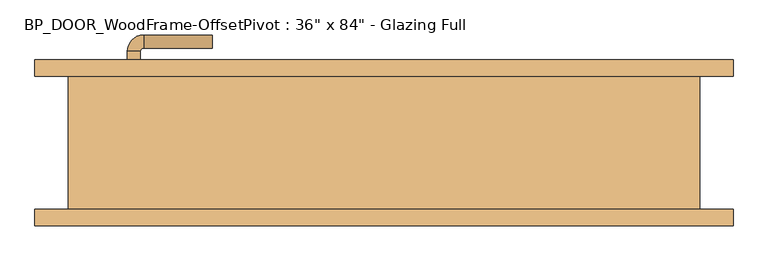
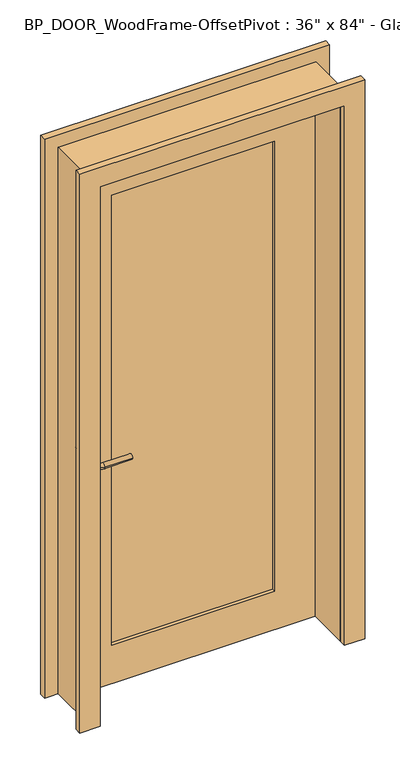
"""IFC4 building model written with IfcOpenShell, lengths in millimetres: door geometry."""

import ifcopenshell
import ifcopenshell.guid

model = None  # the IFC model being written
_history = None  # IfcOwnerHistory: only IFC2X3 demands one
_inside = {}  # id of a spatial element -> (the spatial element, [elements in it])
_under = {}  # id of a project, library or spatial element -> (it, [spatial elements below it])
_declared = {}  # id of a project -> (the project, [libraries it declares])
_typed = {}  # id of a type object -> (the type object, [elements of that type])
_made_of = {}  # id of a material, layer set ... -> (it, [elements and type objects made of it])


def new_model(schema):
    """Start an empty IFC model of exactly this schema.

    Asked for "IFC4X3", IfcOpenShell would pick the latest addendum, in which some entities
    have other attributes; the version numbers below select the first issue.
    IFC2X3 requires an IfcOwnerHistory on every rooted entity: one is made here for all.
    """
    global model, _history
    if schema == "IFC4X3":
        model = ifcopenshell.file(schema_version=(4, 3, 0, 0))
    else:
        model = ifcopenshell.file(schema=schema)
    _inside.clear()
    _under.clear()
    _declared.clear()
    _typed.clear()
    _made_of.clear()
    _history = None
    if model.schema == "IFC2X3":
        org = make("IfcOrganization", Name="unknown")
        user = make(
            "IfcPersonAndOrganization",
            ThePerson=make("IfcPerson", FamilyName="unknown"),
            TheOrganization=org,
        )
        app = make(
            "IfcApplication",
            ApplicationDeveloper=org,
            Version="unknown",
            ApplicationFullName="unknown",
            ApplicationIdentifier="unknown",
        )
        _history = make(
            "IfcOwnerHistory",
            OwningUser=user,
            OwningApplication=app,
            ChangeAction="ADDED",
            CreationDate=0,
        )
    return model


def make(cls, **values):
    """One entity of the class cls with the attributes given. An attribute that is None is left unset."""
    return model.create_entity(
        cls, **{name: value for name, value in values.items() if value is not None}
    )


def rooted(cls, **values):
    """An entity with a GlobalId (a new one), such as an element, a storey or a relation."""
    return make(cls, GlobalId=ifcopenshell.guid.new(), OwnerHistory=_history, **values)


def si_unit(unit_type, name, prefix=None):
    """IfcSIUnit, for example si_unit("LENGTHUNIT", "METRE", prefix="MILLI")."""
    return make("IfcSIUnit", UnitType=unit_type, Prefix=prefix, Name=name)


def assignment(units):
    """IfcUnitAssignment: the units of a project."""
    return None if units is None else make("IfcUnitAssignment", Units=units)


def point(xyz):
    """IfcCartesianPoint."""
    return None if xyz is None else make("IfcCartesianPoint", Coordinates=xyz)


def direction(xyz):
    """IfcDirection."""
    return None if xyz is None else make("IfcDirection", DirectionRatios=xyz)


def frame(location, z_axis=None, x_axis=None):
    """IfcAxis2Placement3D, a coordinate frame: its origin and axes. An axis left out is left unset."""
    return make(
        "IfcAxis2Placement3D",
        Location=point(location),
        Axis=direction(z_axis),
        RefDirection=direction(x_axis),
    )


def frame_2d(location, x_axis=None):
    """IfcAxis2Placement2D, a coordinate frame in the plane: its origin and x axis."""
    return make(
        "IfcAxis2Placement2D", Location=point(location), RefDirection=direction(x_axis)
    )


def origin():
    """The frame at (0, 0, 0) with its axes left unset."""
    return frame((0.0, 0.0, 0.0))


def place(relative_to, where):
    """IfcLocalPlacement: puts the frame where relative to a parent placement (None: the world)."""
    return make(
        "IfcLocalPlacement", PlacementRelTo=relative_to, RelativePlacement=where
    )


def context(
    kind, dimensions, precision=None, world=None, true_north=None, identifier=None
):
    """IfcGeometricRepresentationContext, for example the 3D "Model" context."""
    return make(
        "IfcGeometricRepresentationContext",
        ContextIdentifier=identifier,
        ContextType=kind,
        CoordinateSpaceDimension=dimensions,
        Precision=precision,
        WorldCoordinateSystem=world,
        TrueNorth=true_north,
    )


def project(units=None, contexts=None):
    """IfcProject with its units and contexts."""
    return rooted(
        "IfcProject",
        Name="project",
        RepresentationContexts=contexts,
        UnitsInContext=assignment(units),
    )


def spatial(cls, under=None, at=None, **own):
    """A site, building, storey or space (cls), placed at a placement, below another one or the project."""
    s = rooted(cls, ObjectPlacement=at, **own)
    if under is not None:
        _under.setdefault(under.id(), (under, []))[1].append(s)
    return s


def polyline(points):
    """IfcPolyline through the points."""
    return make("IfcPolyline", Points=[point(p) for p in points])


def circle_curve(where, radius):
    """IfcCircle in the frame where."""
    return make("IfcCircle", Position=where, Radius=radius)


def ellipse_curve(where, semi_axis1, semi_axis2):
    """IfcEllipse in the frame where."""
    return make(
        "IfcEllipse", Position=where, SemiAxis1=semi_axis1, SemiAxis2=semi_axis2
    )


def trimmed(basis, trim1, trim2, sense, master):
    """IfcTrimmedCurve: the piece of a basis curve between two trims."""
    return make(
        "IfcTrimmedCurve",
        BasisCurve=basis,
        Trim1=trim1,
        Trim2=trim2,
        SenseAgreement=sense,
        MasterRepresentation=master,
    )


def segment(curve, same_sense, transition):
    """IfcCompositeCurveSegment."""
    return make(
        "IfcCompositeCurveSegment",
        Transition=transition,
        SameSense=same_sense,
        ParentCurve=curve,
    )


def composite_curve(segments, self_intersect=None):
    """IfcCompositeCurve: segments joined end to end."""
    return make("IfcCompositeCurve", Segments=segments, SelfIntersect=self_intersect)


def outline(outer, holes=None, kind="AREA"):
    """IfcArbitraryClosedProfileDef: a profile drawn as a closed curve; with holes, ...WithVoids."""
    if holes is None:
        return make("IfcArbitraryClosedProfileDef", ProfileType=kind, OuterCurve=outer)
    return make(
        "IfcArbitraryProfileDefWithVoids",
        ProfileType=kind,
        OuterCurve=outer,
        InnerCurves=holes,
    )


def extrude(swept, where, along, depth):
    """IfcExtrudedAreaSolid: the profile swept, set in the frame where, extruded along a direction by depth."""
    return make(
        "IfcExtrudedAreaSolid",
        SweptArea=swept,
        Position=where,
        ExtrudedDirection=direction(along),
        Depth=depth,
    )


def shape(context_of_items, identifier, shape_type, items):
    """IfcShapeRepresentation: the items that make up one representation, for example the "Body"."""
    return make(
        "IfcShapeRepresentation",
        ContextOfItems=context_of_items,
        RepresentationIdentifier=identifier,
        RepresentationType=shape_type,
        Items=items,
    )


def source(mapping_origin, context_of_items, identifier, shape_type, items):
    """IfcRepresentationMap: a shape defined once, which mapped items show again and again."""
    return make(
        "IfcRepresentationMap",
        MappingOrigin=mapping_origin,
        MappedRepresentation=shape(context_of_items, identifier, shape_type, items),
    )


def transform(
    local_origin,
    x_axis=None,
    y_axis=None,
    z_axis=None,
    scale=None,
    scale2=None,
    scale3=None,
    uniform=True,
):
    """IfcCartesianTransformationOperator3D, or its non-uniform kind. x_axis, y_axis, z_axis: its Axis1, 2, 3."""
    if uniform:
        return make(
            "IfcCartesianTransformationOperator3D",
            Axis1=direction(x_axis),
            Axis2=direction(y_axis),
            LocalOrigin=point(local_origin),
            Scale=scale,
            Axis3=direction(z_axis),
        )
    return make(
        "IfcCartesianTransformationOperator3DnonUniform",
        Axis1=direction(x_axis),
        Axis2=direction(y_axis),
        LocalOrigin=point(local_origin),
        Scale=scale,
        Axis3=direction(z_axis),
        Scale2=scale2,
        Scale3=scale3,
    )


def mapped(mapping_source, mapping_target):
    """IfcMappedItem: shows the shape of a source again, moved by a transform."""
    return make(
        "IfcMappedItem", MappingSource=mapping_source, MappingTarget=mapping_target
    )


def made_of(thing, what):
    """Note that an element or type object is made of a material, layer set ...; save() writes the relation."""
    if what is not None:
        _made_of.setdefault(what.id(), (what, []))[1].append(thing)
    return thing


def element(
    cls,
    number,
    at=None,
    inside=None,
    cuts=None,
    type_object=None,
    material=None,
    context=None,
    identifier="Body",
    shape_type=None,
    held_by="IfcProductDefinitionShape",
    body=None,
    shapes=None,
    **own,
):
    """One element of the class cls, such as IfcWall. Its Tag is "e" and its number.

    at: its placement. inside: the storey or other place that contains it. cuts: it is an
    opening in that element (IfcRelVoidsElement). A single representation is given by context,
    identifier, shape_type and body (its items); several are given by shapes. held_by: the class
    of the entity that holds the representations. save() writes the other relations.
    """
    e = rooted(cls, Tag="e%d" % number, ObjectPlacement=at, **own)
    if body is not None:
        shapes = [shape(context, identifier, shape_type, body)]
    if shapes is not None:
        e.Representation = make(held_by, Representations=shapes)
    if inside is not None:
        _inside.setdefault(inside.id(), (inside, []))[1].append(e)
    if cuts is not None:
        rooted(
            "IfcRelVoidsElement", RelatingBuildingElement=cuts, RelatedOpeningElement=e
        )
    if type_object is not None:
        _typed.setdefault(type_object.id(), (type_object, []))[1].append(e)
    return made_of(e, material)


def aggregate(whole, parts):
    """IfcRelAggregates: a whole, such as a stair, and the parts it consists of."""
    return rooted("IfcRelAggregates", RelatingObject=whole, RelatedObjects=parts)


def save(model, path):
    """Write the relations noted so far, then the file.

    IfcRelAggregates (storeys below a building ...), IfcRelContainedInSpatialStructure (elements
    in a storey), IfcRelDefinesByType, IfcRelAssociatesMaterial and IfcRelDeclares: one each for
    every whole, place, type object, material and project.
    """
    for whole, parts in _under.values():
        aggregate(whole, parts)
    for where, things in _inside.values():
        rooted(
            "IfcRelContainedInSpatialStructure",
            RelatedElements=things,
            RelatingStructure=where,
        )
    for kind, things in _typed.values():
        rooted("IfcRelDefinesByType", RelatedObjects=things, RelatingType=kind)
    for what, things in _made_of.values():
        rooted("IfcRelAssociatesMaterial", RelatedObjects=things, RelatingMaterial=what)
    for by, libraries in _declared.values():
        rooted("IfcRelDeclares", RelatingContext=by, RelatedDefinitions=libraries)
    model.write(path)


def plane_surface(at):
    """IfcPlane: the flat surface through the origin of the frame at, square to its z axis."""
    return make("IfcPlane", Position=at)


def cylinder_surface(at, radius):
    """IfcCylindricalSurface: all points at the distance radius from the z axis of the frame at."""
    return make("IfcCylindricalSurface", Position=at, Radius=radius)


def revolved_surface(curve, axis_point, axis_direction):
    """IfcSurfaceOfRevolution: the curve turned about the line through axis_point along axis_direction."""
    return make(
        "IfcSurfaceOfRevolution",
        SweptCurve=make("IfcArbitraryOpenProfileDef", ProfileType="CURVE", Curve=curve),
        AxisPosition=make("IfcAxis1Placement", Location=point(axis_point), Axis=direction(axis_direction)),
    )


def advanced_brep(points, edges, surfaces, faces):
    """IfcAdvancedBrep: a solid bounded by faces that lie on surfaces and meet in shared edges.

    An edge is (start, end): straight between two places in points (the first is 0);
    or (start, end, curve); or (start, end, curve, False) where it runs against its curve.
    A face is (place in surfaces, loops), or (place, loops, False) where it looks against
    its surface's normal. A loop lists edges by number (the first is 1), with a minus sign
    where the edge is run from its end to its start. The first loop is the outer one.
    """
    corners = [point(p) for p in points]
    vertices = [make("IfcVertexPoint", VertexGeometry=c) for c in corners]
    made = []
    for start, end, *more in edges:
        made.append(
            make(
                "IfcEdgeCurve",
                EdgeStart=vertices[start],
                EdgeEnd=vertices[end],
                EdgeGeometry=more[0] if more else make("IfcPolyline", Points=[corners[start], corners[end]]),
                SameSense=more[1] if len(more) > 1 else True,
            )
        )
    hull = []
    for where, loops, *sense in faces:
        bounds = []
        for j, loop in enumerate(loops):
            ring = [make("IfcOrientedEdge", EdgeElement=made[abs(k) - 1], Orientation=k > 0) for k in loop]
            bounds.append(
                make(
                    "IfcFaceOuterBound" if j == 0 else "IfcFaceBound",
                    Bound=make("IfcEdgeLoop", EdgeList=ring),
                    Orientation=True,
                )
            )
        hull.append(make("IfcAdvancedFace", Bounds=bounds, FaceSurface=surfaces[where], SameSense=sense[0] if sense else True))
    return make("IfcAdvancedBrep", Outer=make("IfcClosedShell", CfsFaces=hull))


def door_0c16035c(model_context):
    return source(origin(), model_context, "Body", "SolidModel", [
        extrude(outline(polyline([(0.0, -482.5945313), (0.0, -457.1945313), (2133.5945313, -457.1945313), (2133.5945313, 457.1945312), (0.0, 457.1945312), (0.0, 482.5945312), (2158.9945313, 482.5945312), (2158.9945313, -482.5945313), (0.0, -482.5945313)])), frame((0.0, -101.6, 0.0), z_axis=(0.0, 1.0, 0.0), x_axis=(0.0, 0.0, 1.0)), (0.0, 0.0, 1.0), 203.2),
        extrude(outline(polyline([(0.0, 457.2), (0.0, 533.4), (2209.8, 533.4), (2209.8, -533.4), (0.0, -533.4), (0.0, -457.2), (2133.6, -457.2), (2133.6, 457.2), (0.0, 457.2)])), frame((0.0, 101.6, 0.0), z_axis=(0.0, 1.0, 0.0), x_axis=(0.0, 0.0, 1.0)), (0.0, 0.0, 1.0), 25.4),
        extrude(outline(polyline([(0.0, 457.2), (0.0, 533.4), (2209.8, 533.4), (2209.8, -533.4), (0.0, -533.4), (0.0, -457.2), (2133.6, -457.2), (2133.6, 457.2), (0.0, 457.2)])), frame((0.0, -127.0, 0.0), z_axis=(0.0, 1.0, 0.0), x_axis=(0.0, 0.0, 1.0)), (0.0, 0.0, 1.0), 25.4),
        advanced_brep(
        [(-392.2, 55.5, 915.0), (-372.2, 55.5, 915.0), (-372.2, 25.5, 915.0), (-392.2, 25.5, 915.0), (-367.2, 20.5, 915.0), (-367.2, 0.5, 915.0), (-262.2, 0.5, 915.0), (-262.2, 20.5, 915.0)],
        [
            (0, 1, circle_curve(frame((-382.2, 55.5, 915.0), z_axis=(0.0, 1.0, 0.0), x_axis=(1.0, 0.0, 0.0)), 10.0)),
            (1, 0, circle_curve(frame((-382.2, 55.5, 915.0), z_axis=(0.0, 1.0, 0.0), x_axis=(1.0, 0.0, 0.0)), 10.0)),
            (1, 2),
            (2, 3, circle_curve(frame((-382.2, 25.5, 915.0), z_axis=(0.0, 1.0, 0.0), x_axis=(1.0, 0.0, 0.0)), 10.0)),
            (3, 0),
            (3, 2, circle_curve(frame((-382.2, 25.5, 915.0), z_axis=(0.0, 1.0, 0.0), x_axis=(1.0, 0.0, 0.0)), 10.0)),
            (4, 5, circle_curve(frame((-367.2, 10.5, 915.0), z_axis=(-1.0, 0.0, 0.0), x_axis=(0.0, 1.0, 0.0)), 10.0)),
            (5, 3, circle_curve(frame((-367.2, 25.5, 915.0), z_axis=(0.0, 0.0, -1.0), x_axis=(-1.0, 0.0, 0.0)), 25.0)),
            (2, 4, circle_curve(frame((-367.2, 25.5, 915.0), z_axis=(0.0, 0.0, 1.0), x_axis=(-1.0, 0.0, 0.0)), 5.0)),
            (5, 4, circle_curve(frame((-367.2, 10.5, 915.0), z_axis=(-1.0, 0.0, 0.0), x_axis=(0.0, 1.0, 0.0)), 10.0)),
            (6, 7, circle_curve(frame((-262.2, 10.5, 915.0), z_axis=(1.0, 0.0, 0.0), x_axis=(0.0, 1.0, 0.0)), 10.0)),
            (7, 6, circle_curve(frame((-262.2, 10.5, 915.0), z_axis=(1.0, 0.0, 0.0), x_axis=(0.0, 1.0, 0.0)), 10.0)),
            (4, 7),
            (6, 5),
        ],
        [
            plane_surface(frame((-382.2, 55.5, 915.0), z_axis=(0.0, 1.0, 0.0), x_axis=(0.0, 0.0, 1.0))),
            cylinder_surface(frame((-382.2, 55.5, 915.0), z_axis=(0.0, 1.0, 0.0), x_axis=(1.0, 0.0, 0.0)), 10.0),
            revolved_surface(trimmed(ellipse_curve(frame((-382.2, 25.5, 915.0), z_axis=(0.0, -1.0, 0.0), x_axis=(1.0, 0.0, 0.0)), 10.0, 10.0), [point((-392.2, 25.5, 915.0))], [point((-372.2, 25.5, 915.0))], True, "CARTESIAN"), (-367.2, 25.5, 915.0), (0.0, 0.0, -1.0)),
            revolved_surface(trimmed(ellipse_curve(frame((-382.2, 25.5, 915.0), z_axis=(0.0, -1.0, 0.0), x_axis=(1.0, 0.0, 0.0)), 10.0, 10.0), [point((-372.2, 25.5, 915.0))], [point((-392.2, 25.5, 915.0))], True, "CARTESIAN"), (-367.2, 25.5, 915.0), (0.0, 0.0, -1.0)),
            plane_surface(frame((-262.2, 10.5, 915.0), z_axis=(1.0, 0.0, 0.0), x_axis=(0.0, 0.0, 1.0))),
            cylinder_surface(frame((-367.2, 10.5, 915.0), z_axis=(-1.0, 0.0, 0.0), x_axis=(0.0, 1.0, 0.0)), 10.0),
        ],
        [
            (0, [[1, 2]]),
            (1, [[3, 4, 5, -2]]),
            (1, [[-5, 6, -3, -1]]),
            (2, [[7, 8, -4, 9]]),
            (3, [[10, -9, -6, -8]]),
            (4, [[11, 12]]),
            (5, [[13, -11, 14, -7]]),
            (5, [[-14, -12, -13, -10]]),
        ],
    ),
        extrude(outline(composite_curve([segment(trimmed(circle_curve(frame_2d((915.0, -384.7)), 30.0), [point((915.0, -414.7))], [point((915.0, -354.7))], False, "CARTESIAN"), True, "CONTINUOUS"), segment(trimmed(circle_curve(frame_2d((915.0, -384.7)), 30.0), [point((915.0, -354.7))], [point((915.0, -414.7))], False, "CARTESIAN"), True, "CONTINUOUS")], self_intersect=False)), frame((0.0, 55.5, 0.0), z_axis=(0.0, 1.0, 0.0), x_axis=(0.0, 0.0, 1.0)), (0.0, 0.0, 1.0), 8.0),
        advanced_brep(
        [(-392.2, 109.6, 915.0), (-372.2, 109.6, 915.0), (-392.2, 139.6, 915.0), (-372.2, 139.6, 915.0), (-367.2, 144.6, 915.0), (-367.2, 164.6, 915.0), (-262.2, 164.6, 915.0), (-262.2, 144.6, 915.0)],
        [
            (0, 1, circle_curve(frame((-382.2, 109.6, 915.0), z_axis=(0.0, -1.0, 0.0), x_axis=(1.0, 0.0, 0.0)), 10.0)),
            (1, 0, circle_curve(frame((-382.2, 109.6, 915.0), z_axis=(0.0, -1.0, 0.0), x_axis=(1.0, 0.0, 0.0)), 10.0)),
            (0, 2),
            (2, 3, circle_curve(frame((-382.2, 139.6, 915.0), z_axis=(0.0, -1.0, 0.0), x_axis=(1.0, 0.0, 0.0)), 10.0)),
            (3, 1),
            (3, 2, circle_curve(frame((-382.2, 139.6, 915.0), z_axis=(0.0, -1.0, 0.0), x_axis=(1.0, 0.0, 0.0)), 10.0)),
            (4, 3, circle_curve(frame((-367.2, 139.6, 915.0), z_axis=(0.0, 0.0, 1.0), x_axis=(-1.0, 0.0, 0.0)), 5.0)),
            (2, 5, circle_curve(frame((-367.2, 139.6, 915.0), z_axis=(0.0, 0.0, -1.0), x_axis=(-1.0, 0.0, 0.0)), 25.0)),
            (5, 4, circle_curve(frame((-367.2, 154.6, 915.0), z_axis=(-1.0, 0.0, 0.0), x_axis=(0.0, -1.0, 0.0)), 10.0)),
            (4, 5, circle_curve(frame((-367.2, 154.6, 915.0), z_axis=(-1.0, 0.0, 0.0), x_axis=(0.0, -1.0, 0.0)), 10.0)),
            (6, 7, circle_curve(frame((-262.2, 154.6, 915.0), z_axis=(1.0, 0.0, 0.0), x_axis=(0.0, -1.0, 0.0)), 10.0)),
            (7, 6, circle_curve(frame((-262.2, 154.6, 915.0), z_axis=(1.0, 0.0, 0.0), x_axis=(0.0, -1.0, 0.0)), 10.0)),
            (5, 6),
            (7, 4),
        ],
        [
            plane_surface(frame((-382.2, 109.6, 915.0), z_axis=(0.0, -1.0, 0.0), x_axis=(0.0, 0.0, 1.0))),
            cylinder_surface(frame((-382.2, 109.6, 915.0), z_axis=(0.0, -1.0, 0.0), x_axis=(1.0, 0.0, 0.0)), 10.0),
            revolved_surface(trimmed(ellipse_curve(frame((-382.2, 139.6, 915.0), z_axis=(0.0, -1.0, 0.0), x_axis=(1.0, 0.0, 0.0)), 10.0, 10.0), [point((-392.2, 139.6, 915.0))], [point((-372.2, 139.6, 915.0))], True, "CARTESIAN"), (-367.2, 139.6, 915.0), (0.0, 0.0, -1.0)),
            revolved_surface(trimmed(ellipse_curve(frame((-382.2, 139.6, 915.0), z_axis=(0.0, -1.0, 0.0), x_axis=(1.0, 0.0, 0.0)), 10.0, 10.0), [point((-372.2, 139.6, 915.0))], [point((-392.2, 139.6, 915.0))], True, "CARTESIAN"), (-367.2, 139.6, 915.0), (0.0, 0.0, -1.0)),
            plane_surface(frame((-262.2, 154.6, 915.0), z_axis=(1.0, 0.0, 0.0), x_axis=(0.0, 0.0, 1.0))),
            cylinder_surface(frame((-367.2, 154.6, 915.0), z_axis=(-1.0, 0.0, 0.0), x_axis=(0.0, -1.0, 0.0)), 10.0),
        ],
        [
            (0, [[1, 2]]),
            (1, [[-1, 3, 4, 5]]),
            (1, [[-2, -5, 6, -3]]),
            (2, [[7, -4, 8, 9]]),
            (3, [[-8, -6, -7, 10]]),
            (4, [[11, 12]]),
            (5, [[-9, 13, -12, 14]]),
            (5, [[-10, -14, -11, -13]]),
        ],
    ),
        extrude(outline(composite_curve([segment(trimmed(circle_curve(frame_2d((915.0, -384.7)), 30.0), [point((915.0, -414.7))], [point((915.0, -354.7))], False, "CARTESIAN"), True, "CONTINUOUS"), segment(trimmed(circle_curve(frame_2d((915.0, -384.7)), 30.0), [point((915.0, -354.7))], [point((915.0, -414.7))], False, "CARTESIAN"), True, "CONTINUOUS")], self_intersect=False)), frame((0.0, 101.6, 0.0), z_axis=(0.0, 1.0, 0.0), x_axis=(0.0, 0.0, 1.0)), (0.0, 0.0, 1.0), 8.0),
        extrude(outline(polyline([(304.8, 76.2), (-304.8, 76.2), (-304.8, 88.9), (304.8, 88.9), (304.8, 76.2)])), frame((0.0, 0.0, 152.4), z_axis=(0.0, 0.0, 1.0), x_axis=(1.0, 0.0, 0.0)), (0.0, 0.0, 1.0), 1778.0),
        extrude(outline(polyline([(2133.6, 457.2), (2133.6, -457.2), (0.0, -457.2), (0.0, 457.2), (2133.6, 457.2)]), holes=[polyline([(1930.4, 304.8), (152.4, 304.8), (152.4, -304.8), (1930.4, -304.8), (1930.4, 304.8)])]), frame((0.0, 63.5, 0.0), z_axis=(0.0, 1.0, 0.0), x_axis=(0.0, 0.0, 1.0)), (0.0, 0.0, 1.0), 38.1),
    ])


if __name__ == "__main__":
    model = new_model("IFC4")
    model_context = context("Model", 3, world=origin())
    ifc_project = project(units=[si_unit("LENGTHUNIT", "METRE", prefix="MILLI")], contexts=[model_context])
    site = spatial("IfcSite", under=ifc_project)
    building = spatial("IfcBuilding", under=site)
    placement = place(None, origin())
    door_shape = door_0c16035c(model_context)
    element("IfcDoor", 1, ObjectType="BP_DOOR_WoodFrame-OffsetPivot : 36\" x 84\" - Glazing Full", at=placement, inside=building, context=model_context, shape_type="MappedRepresentation", body=[
        mapped(door_shape, transform((0.0, 0.0, 0.0), x_axis=(1.0, 0.0, 0.0), y_axis=(0.0, 1.0, 0.0), z_axis=(0.0, 0.0, 1.0))),
    ])
    save(model, "model.ifc")
